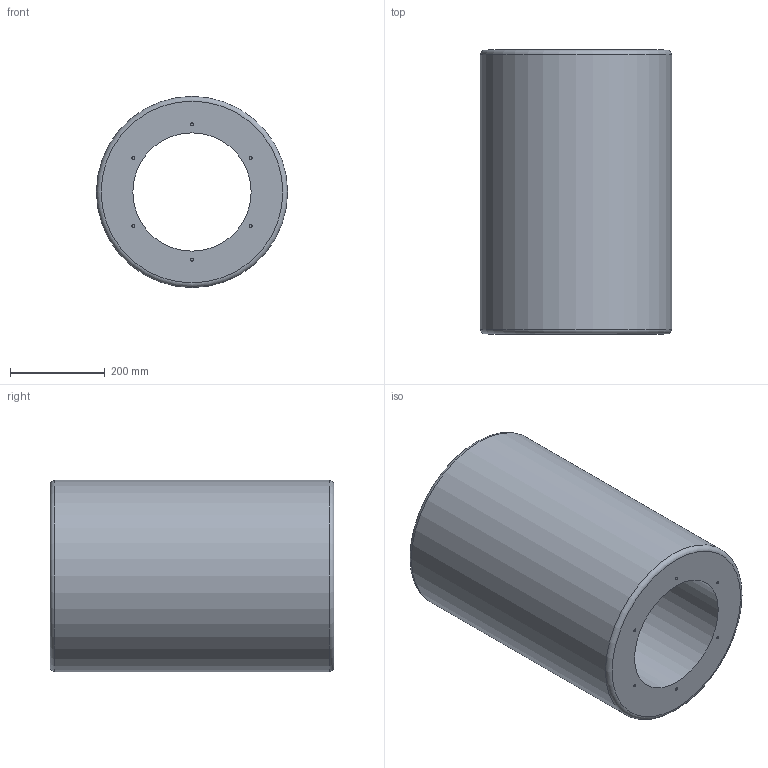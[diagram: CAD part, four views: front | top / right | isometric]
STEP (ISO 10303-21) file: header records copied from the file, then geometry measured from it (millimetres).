
FILE_DESCRIPTION(/* description */ (''),/* implementation_level */ '2;1');
FILE_NAME(/* name */ 'Z:\Output\RSD_250-600-08738-002.stp',/* time_stamp */ '2017-09-20T12:03:53+02:00',/* author */ ('Engineering1'),/* organization */ (''),/* preprocessor_version */ 'ST-DEVELOPER v16.5',/* originating_system */ 'Autodesk Inventor 2017',/* authorisation */ '');
FILE_SCHEMA (('AUTOMOTIVE_DESIGN { 1 0 10303 214 3 1 1 }'));
Length unit declared in the file: millimetre
Products named in the file (1): RSD-1
Bounding box: 404 x 600 x 404 mm (x, y, z)
Volume: 47404031.6 mm3; surface area: 1382243.3 mm2
Topology: 1 solids, 1 shells, 30 faces, 46 edges, 30 vertices
Faces by surface type: cylinder 14, plane 14, torus 2
Full cylindrical faces by diameter (mm): 6 x12, 250 x1, 404 x1
Entity records: 646 total; most frequent: DIRECTION 122, CARTESIAN_POINT 91, AXIS2_PLACEMENT_3D 61, EDGE_LOOP 60, ORIENTED_EDGE 60, FACE_BOUND 30, FACE_OUTER_BOUND 30, CIRCLE 30
